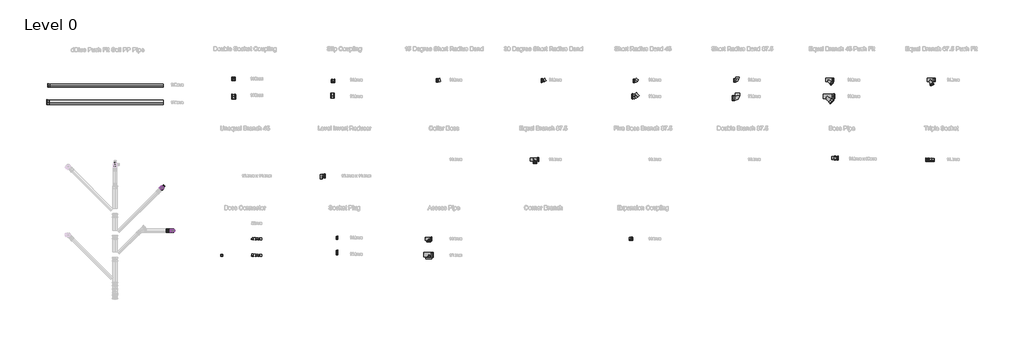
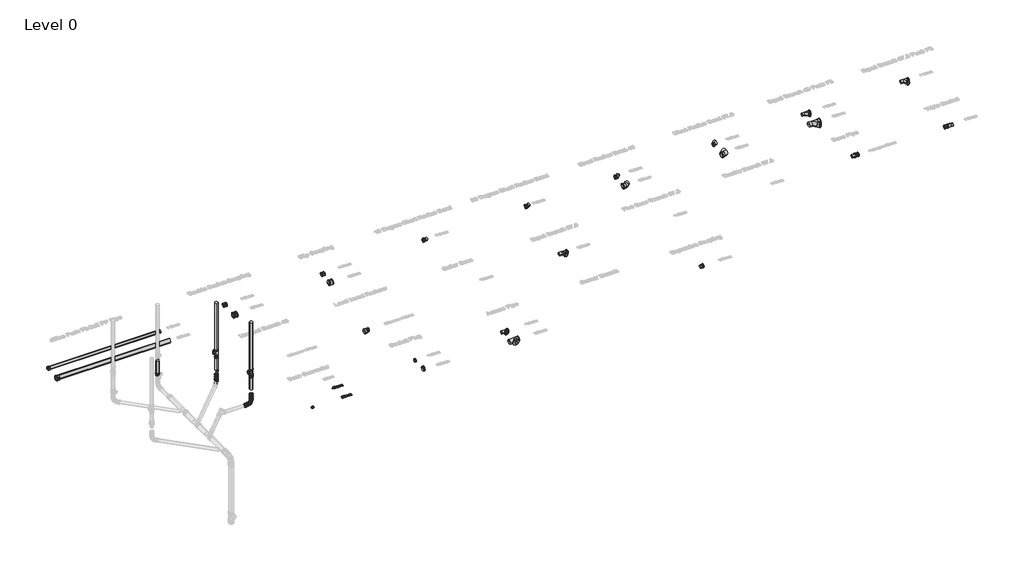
# One storey, part 2 of 15: 50 pipe fittings, 2 proxies.
"""IFC4 building model written with IfcOpenShell, lengths in millimetres."""

from ifc_helpers import new_model, si_unit, point, frame, frame_2d, origin, origin_with_axes, place, context, project, spatial, polyline, circle_curve, trimmed, segment, composite_curve, outline, extrude, transform, mapped, element, save
from components import pipe_fitting_d93e64ae, pipe_fitting_703dc98e, pipe_fitting_92370083, pipe_fitting_46917a60, pipe_fitting_af558869, pipe_fitting_f7358239, pipe_fitting_c5ec87fd, pipe_fitting_485433b0, pipe_fitting_680307cb, pipe_fitting_e7de12d3, pipe_fitting_0bd95a64, pipe_fitting_395e146a, pipe_fitting_c605c0b5, pipe_fitting_47f9a3f0, pipe_fitting_3ffe21c8, pipe_fitting_f85930d2, pipe_fitting_5ae2cbee, pipe_fitting_27dfb203, pipe_fitting_538f6d23, pipe_fitting_d6a3997c, pipe_fitting_5f3f304f, sa420xbl_50mm_blue_6babe31f, se402bl_110mm_blue_ff2aa63c, se409bl_110mm_blue_ec458fc1, sy401bl_110mm_blue_66424996

model = new_model("IFC4")

# Units and contexts
model_context = context("Model", 3, world=origin())
ifc_project = project(units=[si_unit("LENGTHUNIT", "METRE", prefix="MILLI")], contexts=[model_context])

# Site, building, storey
site = spatial("IfcSite", under=ifc_project)
building = spatial("IfcBuilding", under=site)
storey = spatial("IfcBuildingStorey", under=building, Name="Level 0", Elevation=0.0)

# Proxies
placement = place(None, origin())
element("IfcBuildingElementProxy", 1, Name="100mm Arial", ObjectType="100mm Arial", at=placement, inside=storey, context=model_context, shape_type="SweptSolid", body=[
    extrude(outline(polyline([(-20760.1908572, 2637.7167304), (-20760.1908572, 2660.7936535), (-20804.8062418, 2660.7936535), (-20804.8062418, 2673.1013458), (-20757.1139341, 2734.6398073), (-20747.8831649, 2734.6398073), (-20747.8831649, 2673.1013458), (-20735.5754726, 2673.1013458), (-20735.5754726, 2660.7936535), (-20747.8831649, 2660.7936535), (-20747.8831649, 2637.7167304), (-20760.1908572, 2637.7167304)]), holes=[polyline([(-20760.1908572, 2673.1013458), (-20760.1908572, 2711.1301919), (-20789.6620111, 2673.1013458), (-20760.1908572, 2673.1013458)])]), origin_with_axes(), (0.0, 0.0, 1.0), 15.0),
    extrude(outline(polyline([(-20724.8062418, 2686.1542304), (-20721.1884534, 2714.4835573), (-20710.4432611, 2730.8176919), (-20692.4985495, 2736.1782688), (-20678.1235495, 2733.0051919), (-20668.1956649, 2723.8585573), (-20662.4264341, 2709.2912496), (-20660.1908572, 2686.1542304), (-20663.772588, 2657.9450958), (-20674.4817226, 2641.5749035), (-20692.4985495, 2636.1782688), (-20705.2870111, 2638.5220188), (-20714.9985495, 2645.5532688), (-20722.3543188, 2662.2059131), (-20724.8062418, 2686.1542304)]), holes=[polyline([(-20712.4985495, 2686.1782688), (-20711.0562418, 2666.8182929), (-20706.7293188, 2655.613365), (-20700.2870111, 2650.2678121), (-20692.4985495, 2648.4859611), (-20684.710088, 2650.2738217), (-20678.2677803, 2655.6374035), (-20673.9408572, 2666.848341), (-20672.4985495, 2686.1782688), (-20673.8927803, 2705.1025477), (-20678.0754726, 2716.394615), (-20684.5057611, 2722.0015861), (-20692.6427803, 2723.8705765), (-20700.3471072, 2722.2239419), (-20706.5370111, 2717.2840381), (-20711.0081649, 2705.2888458), (-20712.4985495, 2686.1782688)])]), origin_with_axes(), (0.0, 0.0, 1.0), 15.0),
    extrude(outline(polyline([(-20646.3447034, 2637.7167304), (-20646.3447034, 2710.0244227), (-20634.0370111, 2710.0244227), (-20634.0370111, 2698.1253842), (-20625.5754726, 2707.8729804), (-20613.5322034, 2711.5628842), (-20601.2004726, 2707.800865), (-20594.4216264, 2697.2599996), (-20584.8182611, 2707.9871631), (-20572.6908572, 2711.5628842), (-20563.4390543, 2710.0755044), (-20556.5971072, 2705.613365), (-20552.3693428, 2698.0562736), (-20550.960088, 2687.2840381), (-20550.960088, 2637.7167304), (-20563.2677803, 2637.7167304), (-20563.2677803, 2681.9955765), (-20564.4096072, 2692.2720188), (-20568.5442226, 2697.332115), (-20575.5754726, 2699.2551919), (-20587.678838, 2694.3273073), (-20592.4985495, 2678.5340381), (-20592.4985495, 2637.7167304), (-20604.8062418, 2637.7167304), (-20604.8062418, 2683.3657688), (-20607.6547995, 2695.2888458), (-20616.9937418, 2699.2551919), (-20626.1043188, 2696.6109611), (-20632.1620111, 2688.8705765), (-20634.0370111, 2674.1830765), (-20634.0370111, 2637.7167304), (-20646.3447034, 2637.7167304)])), origin_with_axes(), (0.0, 0.0, 1.0), 15.0),
    extrude(outline(polyline([(-20532.4985495, 2637.7167304), (-20532.4985495, 2710.0244227), (-20520.1908572, 2710.0244227), (-20520.1908572, 2698.1253842), (-20511.7293188, 2707.8729804), (-20499.6860495, 2711.5628842), (-20487.3543188, 2707.800865), (-20480.5754726, 2697.2599996), (-20470.9721072, 2707.9871631), (-20458.8447034, 2711.5628842), (-20449.5929005, 2710.0755044), (-20442.7509534, 2705.613365), (-20438.5231889, 2698.0562736), (-20437.1139341, 2687.2840381), (-20437.1139341, 2637.7167304), (-20449.4216264, 2637.7167304), (-20449.4216264, 2681.9955765), (-20450.5634534, 2692.2720188), (-20454.6980688, 2697.332115), (-20461.7293188, 2699.2551919), (-20473.8326841, 2694.3273073), (-20478.6523957, 2678.5340381), (-20478.6523957, 2637.7167304), (-20490.960088, 2637.7167304), (-20490.960088, 2683.3657688), (-20493.8086457, 2695.2888458), (-20503.147588, 2699.2551919), (-20512.2581649, 2696.6109611), (-20518.3158572, 2688.8705765), (-20520.1908572, 2674.1830765), (-20520.1908572, 2637.7167304), (-20532.4985495, 2637.7167304)])), origin_with_axes(), (0.0, 0.0, 1.0), 15.0),
])
element("IfcBuildingElementProxy", 2, Name="100mm Arial", ObjectType="100mm Arial", at=placement, inside=storey, context=model_context, shape_type="SweptSolid", body=[
    extrude(outline(polyline([(-20800.1908572, 2083.8705765), (-20787.8831649, 2085.4090381), (-20781.6812418, 2072.7287496), (-20768.8206649, 2068.4859611), (-20759.9985495, 2069.9613217), (-20753.3879726, 2074.3874035), (-20749.2593668, 2081.253389), (-20747.8831649, 2090.0484611), (-20753.0394149, 2104.6638458), (-20759.5147755, 2108.6842785), (-20768.6283572, 2110.0244227), (-20779.4336457, 2107.8849996), (-20786.3447034, 2102.332115), (-20798.6523957, 2103.8705765), (-20787.8831649, 2154.6398073), (-20740.1908572, 2154.6398073), (-20740.1908572, 2142.332115), (-20777.9312418, 2142.332115), (-20783.1956649, 2115.2167304), (-20774.4035976, 2120.5532688), (-20765.1908572, 2122.332115), (-20753.6914582, 2120.1265861), (-20744.1451841, 2113.5099996), (-20737.7179005, 2103.425865), (-20735.5754726, 2090.8176919), (-20737.5045591, 2078.5099996), (-20743.2918188, 2067.9811535), (-20754.3735495, 2059.12899), (-20768.8687418, 2056.1782688), (-20780.9570832, 2058.0743025), (-20790.5874918, 2063.7624035), (-20797.1890543, 2072.581514), (-20800.1908572, 2083.8705765)])), origin_with_axes(), (0.0, 0.0, 1.0), 15.0),
    extrude(outline(polyline([(-20724.8062418, 2106.1542304), (-20721.1884534, 2134.4835573), (-20710.4432611, 2150.8176919), (-20692.4985495, 2156.1782688), (-20678.1235495, 2153.0051919), (-20668.1956649, 2143.8585573), (-20662.4264341, 2129.2912496), (-20660.1908572, 2106.1542304), (-20663.772588, 2077.9450958), (-20674.4817226, 2061.5749035), (-20692.4985495, 2056.1782688), (-20705.2870111, 2058.5220188), (-20714.9985495, 2065.5532688), (-20722.3543188, 2082.2059131), (-20724.8062418, 2106.1542304)]), holes=[polyline([(-20712.4985495, 2106.1782688), (-20711.0562418, 2086.8182929), (-20706.7293188, 2075.613365), (-20700.2870111, 2070.2678121), (-20692.4985495, 2068.4859611), (-20684.710088, 2070.2738217), (-20678.2677803, 2075.6374035), (-20673.9408572, 2086.848341), (-20672.4985495, 2106.1782688), (-20673.8927803, 2125.1025477), (-20678.0754726, 2136.394615), (-20684.5057611, 2142.0015861), (-20692.6427803, 2143.8705765), (-20700.3471072, 2142.2239419), (-20706.5370111, 2137.2840381), (-20711.0081649, 2125.2888458), (-20712.4985495, 2106.1782688)])]), origin_with_axes(), (0.0, 0.0, 1.0), 15.0),
    extrude(outline(polyline([(-20646.3447034, 2057.7167304), (-20646.3447034, 2130.0244227), (-20634.0370111, 2130.0244227), (-20634.0370111, 2118.1253842), (-20625.5754726, 2127.8729804), (-20613.5322034, 2131.5628842), (-20601.2004726, 2127.800865), (-20594.4216264, 2117.2599996), (-20584.8182611, 2127.9871631), (-20572.6908572, 2131.5628842), (-20563.4390543, 2130.0755044), (-20556.5971072, 2125.613365), (-20552.3693428, 2118.0562736), (-20550.960088, 2107.2840381), (-20550.960088, 2057.7167304), (-20563.2677803, 2057.7167304), (-20563.2677803, 2101.9955765), (-20564.4096072, 2112.2720188), (-20568.5442226, 2117.332115), (-20575.5754726, 2119.2551919), (-20587.678838, 2114.3273073), (-20592.4985495, 2098.5340381), (-20592.4985495, 2057.7167304), (-20604.8062418, 2057.7167304), (-20604.8062418, 2103.3657688), (-20607.6547995, 2115.2888458), (-20616.9937418, 2119.2551919), (-20626.1043188, 2116.6109611), (-20632.1620111, 2108.8705765), (-20634.0370111, 2094.1830765), (-20634.0370111, 2057.7167304), (-20646.3447034, 2057.7167304)])), origin_with_axes(), (0.0, 0.0, 1.0), 15.0),
    extrude(outline(polyline([(-20532.4985495, 2057.7167304), (-20532.4985495, 2130.0244227), (-20520.1908572, 2130.0244227), (-20520.1908572, 2118.1253842), (-20511.7293188, 2127.8729804), (-20499.6860495, 2131.5628842), (-20487.3543188, 2127.800865), (-20480.5754726, 2117.2599996), (-20470.9721072, 2127.9871631), (-20458.8447034, 2131.5628842), (-20449.5929005, 2130.0755044), (-20442.7509534, 2125.613365), (-20438.5231889, 2118.0562736), (-20437.1139341, 2107.2840381), (-20437.1139341, 2057.7167304), (-20449.4216264, 2057.7167304), (-20449.4216264, 2101.9955765), (-20450.5634534, 2112.2720188), (-20454.6980688, 2117.332115), (-20461.7293188, 2119.2551919), (-20473.8326841, 2114.3273073), (-20478.6523957, 2098.5340381), (-20478.6523957, 2057.7167304), (-20490.960088, 2057.7167304), (-20490.960088, 2103.3657688), (-20493.8086457, 2115.2888458), (-20503.147588, 2119.2551919), (-20512.2581649, 2116.6109611), (-20518.3158572, 2108.8705765), (-20520.1908572, 2094.1830765), (-20520.1908572, 2057.7167304), (-20532.4985495, 2057.7167304)])), origin_with_axes(), (0.0, 0.0, 1.0), 15.0),
])

# Pipe fittings
element("IfcPipeFitting", 3, ObjectType="Marley dBlue - PP Push-fit soil - Blue", at=placement, inside=storey, context=model_context, shape_type="SweptSolid", body=[
    extrude(outline(composite_curve([segment(trimmed(circle_curve(frame_2d((8080.2145219, 0.0)), 55.0), [point((8025.2145219, 0.0))], [point((8080.2145219, 55.0))], False, "CARTESIAN"), True, "CONTINUOUS"), segment(trimmed(circle_curve(frame_2d((8080.2145219, 0.0)), 55.0), [point((8080.2145219, 55.0))], [point((8135.2145219, 0.0))], False, "CARTESIAN"), True, "CONTINUOUS"), segment(trimmed(circle_curve(frame_2d((8080.2145219, 0.0)), 55.0), [point((8135.2145219, 0.0))], [point((8080.2145219, -55.0))], False, "CARTESIAN"), True, "CONTINUOUS"), segment(trimmed(circle_curve(frame_2d((8080.2145219, 0.0)), 55.0), [point((8080.2145219, -55.0))], [point((8025.2145219, 0.0))], False, "CARTESIAN"), True, "CONTINUOUS")], self_intersect=False)), frame((-27898.9001753, 0.0, 0.0), z_axis=(1.0, 0.0, 0.0), x_axis=(0.0, 1.0, 0.0)), (0.0, 0.0, 1.0), 4000.0),
])
element("IfcPipeFitting", 4, ObjectType="Marley dBlue - PP Push-fit soil - Blue", at=placement, inside=storey, context=model_context, shape_type="SweptSolid", body=[
    extrude(outline(composite_curve([segment(trimmed(circle_curve(frame_2d((7488.9614868, 0.0)), 80.0), [point((7408.9614868, 0.0))], [point((7488.9614868, 80.0))], False, "CARTESIAN"), True, "CONTINUOUS"), segment(trimmed(circle_curve(frame_2d((7488.9614868, 0.0)), 80.0), [point((7488.9614868, 80.0))], [point((7568.9614868, 0.0))], False, "CARTESIAN"), True, "CONTINUOUS"), segment(trimmed(circle_curve(frame_2d((7488.9614868, 0.0)), 80.0), [point((7568.9614868, 0.0))], [point((7488.9614868, -80.0))], False, "CARTESIAN"), True, "CONTINUOUS"), segment(trimmed(circle_curve(frame_2d((7488.9614868, 0.0)), 80.0), [point((7488.9614868, -80.0))], [point((7408.9614868, 0.0))], False, "CARTESIAN"), True, "CONTINUOUS")], self_intersect=False)), frame((-27902.1440159, 0.0, 0.0), z_axis=(1.0, 0.0, 0.0), x_axis=(0.0, 1.0, 0.0)), (0.0, 0.0, 1.0), 4000.0),
])
element("IfcPipeFitting", 5, ObjectType="Marley dBlue - PP Push-fit soil - Blue", at=placement, inside=storey, context=model_context, shape_type="SweptSolid", body=[
    extrude(outline(composite_curve([segment(trimmed(circle_curve(frame_2d((-23952.4349211, 4470.6186127)), 55.0), [point((-24007.4349211, 4470.6186127))], [point((-23952.4349211, 4525.6186127))], False, "CARTESIAN"), True, "CONTINUOUS"), segment(trimmed(circle_curve(frame_2d((-23952.4349211, 4470.6186127)), 55.0), [point((-23952.4349211, 4525.6186127))], [point((-23897.4349211, 4470.6186127))], False, "CARTESIAN"), True, "CONTINUOUS"), segment(trimmed(circle_curve(frame_2d((-23952.4349211, 4470.6186127)), 55.0), [point((-23897.4349211, 4470.6186127))], [point((-23952.4349211, 4415.6186127))], False, "CARTESIAN"), True, "CONTINUOUS"), segment(trimmed(circle_curve(frame_2d((-23952.4349211, 4470.6186127)), 55.0), [point((-23952.4349211, 4415.6186127))], [point((-24007.4349211, 4470.6186127))], False, "CARTESIAN"), True, "CONTINUOUS")], self_intersect=False)), frame((0.0, 0.0, 1462.5709445), z_axis=(0.0, 0.0, 1.0), x_axis=(1.0, 0.0, 0.0)), (0.0, 0.0, 1.0), 1845.8947311),
])
element("IfcPipeFitting", 6, ObjectType="Marley dBlue - PP Push-fit soil - Blue", at=placement, inside=storey, context=model_context, shape_type="SweptSolid", body=[
    extrude(outline(composite_curve([segment(trimmed(circle_curve(frame_2d((-23952.4349211, 4470.6186127)), 55.0), [point((-24007.4349211, 4470.6186127))], [point((-23952.4349211, 4525.6186127))], False, "CARTESIAN"), True, "CONTINUOUS"), segment(trimmed(circle_curve(frame_2d((-23952.4349211, 4470.6186127)), 55.0), [point((-23952.4349211, 4525.6186127))], [point((-23897.4349211, 4470.6186127))], False, "CARTESIAN"), True, "CONTINUOUS"), segment(trimmed(circle_curve(frame_2d((-23952.4349211, 4470.6186127)), 55.0), [point((-23897.4349211, 4470.6186127))], [point((-23952.4349211, 4415.6186127))], False, "CARTESIAN"), True, "CONTINUOUS"), segment(trimmed(circle_curve(frame_2d((-23952.4349211, 4470.6186127)), 55.0), [point((-23952.4349211, 4415.6186127))], [point((-24007.4349211, 4470.6186127))], False, "CARTESIAN"), True, "CONTINUOUS")], self_intersect=False)), frame((0.0, 0.0, 1270.3154264), z_axis=(0.0, 0.0, 1.0), x_axis=(1.0, 0.0, 0.0)), (0.0, 0.0, 1.0), 11.7555181),
])
element("IfcPipeFitting", 7, ObjectType="Marley dBlue - PP Push-fit soil - Blue", at=placement, inside=storey, context=model_context, shape_type="SweptSolid", body=[
    extrude(outline(composite_curve([segment(trimmed(circle_curve(frame_2d((-23952.4349211, 4470.6186127)), 55.0), [point((-24007.4349211, 4470.6186127))], [point((-23952.4349211, 4525.6186127))], False, "CARTESIAN"), True, "CONTINUOUS"), segment(trimmed(circle_curve(frame_2d((-23952.4349211, 4470.6186127)), 55.0), [point((-23952.4349211, 4525.6186127))], [point((-23897.4349211, 4470.6186127))], False, "CARTESIAN"), True, "CONTINUOUS"), segment(trimmed(circle_curve(frame_2d((-23952.4349211, 4470.6186127)), 55.0), [point((-23897.4349211, 4470.6186127))], [point((-23952.4349211, 4415.6186127))], False, "CARTESIAN"), True, "CONTINUOUS"), segment(trimmed(circle_curve(frame_2d((-23952.4349211, 4470.6186127)), 55.0), [point((-23952.4349211, 4415.6186127))], [point((-24007.4349211, 4470.6186127))], False, "CARTESIAN"), True, "CONTINUOUS")], self_intersect=False)), frame((0.0, 0.0, 510.4328687), z_axis=(0.0, 0.0, 1.0), x_axis=(1.0, 0.0, 0.0)), (0.0, 0.0, 1.0), 18.0481103),
])
element("IfcPipeFitting", 8, ObjectType="Marley dBlue - PP Push-fit soil - Blue", at=placement, inside=storey, context=model_context, shape_type="SweptSolid", body=[
    extrude(outline(composite_curve([segment(trimmed(circle_curve(frame_2d((-23952.4349211, 4470.6186127)), 55.0), [point((-24007.4349211, 4470.6186127))], [point((-23952.4349211, 4525.6186127))], False, "CARTESIAN"), True, "CONTINUOUS"), segment(trimmed(circle_curve(frame_2d((-23952.4349211, 4470.6186127)), 55.0), [point((-23952.4349211, 4525.6186127))], [point((-23897.4349211, 4470.6186127))], False, "CARTESIAN"), True, "CONTINUOUS"), segment(trimmed(circle_curve(frame_2d((-23952.4349211, 4470.6186127)), 55.0), [point((-23897.4349211, 4470.6186127))], [point((-23952.4349211, 4415.6186127))], False, "CARTESIAN"), True, "CONTINUOUS"), segment(trimmed(circle_curve(frame_2d((-23952.4349211, 4470.6186127)), 55.0), [point((-23952.4349211, 4415.6186127))], [point((-24007.4349211, 4470.6186127))], False, "CARTESIAN"), True, "CONTINUOUS")], self_intersect=False)), frame((0.0, 0.0, 330.7335137), z_axis=(0.0, 0.0, 1.0), x_axis=(1.0, 0.0, 0.0)), (0.0, 0.0, 1.0), 178.3660217),
])
element("IfcPipeFitting", 9, ObjectType="Marley dBlue - PP Push-fit soil - Blue", at=placement, inside=storey, context=model_context, shape_type="SweptSolid", body=[
    extrude(outline(composite_curve([segment(trimmed(circle_curve(frame_2d((-23952.4349211, 4470.6186127)), 55.0), [point((-24007.4349211, 4470.6186127))], [point((-23952.4349211, 4525.6186127))], False, "CARTESIAN"), True, "CONTINUOUS"), segment(trimmed(circle_curve(frame_2d((-23952.4349211, 4470.6186127)), 55.0), [point((-23952.4349211, 4525.6186127))], [point((-23897.4349211, 4470.6186127))], False, "CARTESIAN"), True, "CONTINUOUS"), segment(trimmed(circle_curve(frame_2d((-23952.4349211, 4470.6186127)), 55.0), [point((-23897.4349211, 4470.6186127))], [point((-23952.4349211, 4415.6186127))], False, "CARTESIAN"), True, "CONTINUOUS"), segment(trimmed(circle_curve(frame_2d((-23952.4349211, 4470.6186127)), 55.0), [point((-23952.4349211, 4415.6186127))], [point((-24007.4349211, 4470.6186127))], False, "CARTESIAN"), True, "CONTINUOUS")], self_intersect=False)), frame((0.0, 0.0, 756.7869007), z_axis=(0.0, 0.0, 1.0), x_axis=(1.0, 0.0, 0.0)), (0.0, 0.0, 1.0), 512.1951924),
])
element("IfcPipeFitting", 10, ObjectType="Marley dBlue - PP Push-fit soil - Blue", at=placement, inside=storey, context=model_context, shape_type="SweptSolid", body=[
    extrude(outline(composite_curve([segment(trimmed(circle_curve(frame_2d((-23563.6504321, 2968.2313141)), 55.0), [point((-23618.6504321, 2968.2313141))], [point((-23563.6504321, 3023.2313141))], False, "CARTESIAN"), True, "CONTINUOUS"), segment(trimmed(circle_curve(frame_2d((-23563.6504321, 2968.2313141)), 55.0), [point((-23563.6504321, 3023.2313141))], [point((-23508.6504321, 2968.2313141))], False, "CARTESIAN"), True, "CONTINUOUS"), segment(trimmed(circle_curve(frame_2d((-23563.6504321, 2968.2313141)), 55.0), [point((-23508.6504321, 2968.2313141))], [point((-23563.6504321, 2913.2313141))], False, "CARTESIAN"), True, "CONTINUOUS"), segment(trimmed(circle_curve(frame_2d((-23563.6504321, 2968.2313141)), 55.0), [point((-23563.6504321, 2913.2313141))], [point((-23618.6504321, 2968.2313141))], False, "CARTESIAN"), True, "CONTINUOUS")], self_intersect=False)), frame((0.0, 0.0, 1490.7313031), z_axis=(0.0, 0.0, 1.0), x_axis=(1.0, 0.0, 0.0)), (0.0, 0.0, 1.0), 1843.8947311),
])
element("IfcPipeFitting", 11, ObjectType="Marley dBlue - PP Push-fit soil - Blue", at=placement, inside=storey, context=model_context, shape_type="SweptSolid", body=[
    extrude(outline(composite_curve([segment(trimmed(circle_curve(frame_2d((-23563.6504321, 2968.2313141)), 55.0), [point((-23618.6504321, 2968.2313141))], [point((-23563.6504321, 3023.2313141))], False, "CARTESIAN"), True, "CONTINUOUS"), segment(trimmed(circle_curve(frame_2d((-23563.6504321, 2968.2313141)), 55.0), [point((-23563.6504321, 3023.2313141))], [point((-23508.6504321, 2968.2313141))], False, "CARTESIAN"), True, "CONTINUOUS"), segment(trimmed(circle_curve(frame_2d((-23563.6504321, 2968.2313141)), 55.0), [point((-23508.6504321, 2968.2313141))], [point((-23563.6504321, 2913.2313141))], False, "CARTESIAN"), True, "CONTINUOUS"), segment(trimmed(circle_curve(frame_2d((-23563.6504321, 2968.2313141)), 55.0), [point((-23563.6504321, 2913.2313141))], [point((-23618.6504321, 2968.2313141))], False, "CARTESIAN"), True, "CONTINUOUS")], self_intersect=False)), frame((0.0, 0.0, 1295.1874), z_axis=(0.0, 0.0, 1.0), x_axis=(1.0, 0.0, 0.0)), (0.0, 0.0, 1.0), 15.0439031),
])
element("IfcPipeFitting", 12, ObjectType="Marley dBlue - PP Push-fit soil - Blue", at=placement, inside=storey, context=model_context, shape_type="SweptSolid", body=[
    extrude(outline(composite_curve([segment(trimmed(circle_curve(frame_2d((-23563.6504321, 2968.2313141)), 55.0), [point((-23618.6504321, 2968.2313141))], [point((-23563.6504321, 3023.2313141))], False, "CARTESIAN"), True, "CONTINUOUS"), segment(trimmed(circle_curve(frame_2d((-23563.6504321, 2968.2313141)), 55.0), [point((-23563.6504321, 3023.2313141))], [point((-23508.6504321, 2968.2313141))], False, "CARTESIAN"), True, "CONTINUOUS"), segment(trimmed(circle_curve(frame_2d((-23563.6504321, 2968.2313141)), 55.0), [point((-23508.6504321, 2968.2313141))], [point((-23563.6504321, 2913.2313141))], False, "CARTESIAN"), True, "CONTINUOUS"), segment(trimmed(circle_curve(frame_2d((-23563.6504321, 2968.2313141)), 55.0), [point((-23563.6504321, 2913.2313141))], [point((-23618.6504321, 2968.2313141))], False, "CARTESIAN"), True, "CONTINUOUS")], self_intersect=False)), frame((0.0, 0.0, 534.3837418), z_axis=(0.0, 0.0, 1.0), x_axis=(1.0, 0.0, 0.0)), (0.0, 0.0, 1.0), 14.7003743),
])
element("IfcPipeFitting", 13, ObjectType="Marley dBlue - PP Push-fit soil - Blue", at=placement, inside=storey, context=model_context, shape_type="SweptSolid", body=[
    extrude(outline(composite_curve([segment(trimmed(circle_curve(frame_2d((-23563.6504321, 2968.2313141)), 55.0), [point((-23618.6504321, 2968.2313141))], [point((-23563.6504321, 3023.2313141))], False, "CARTESIAN"), True, "CONTINUOUS"), segment(trimmed(circle_curve(frame_2d((-23563.6504321, 2968.2313141)), 55.0), [point((-23563.6504321, 3023.2313141))], [point((-23508.6504321, 2968.2313141))], False, "CARTESIAN"), True, "CONTINUOUS"), segment(trimmed(circle_curve(frame_2d((-23563.6504321, 2968.2313141)), 55.0), [point((-23508.6504321, 2968.2313141))], [point((-23563.6504321, 2913.2313141))], False, "CARTESIAN"), True, "CONTINUOUS"), segment(trimmed(circle_curve(frame_2d((-23563.6504321, 2968.2313141)), 55.0), [point((-23563.6504321, 2913.2313141))], [point((-23618.6504321, 2968.2313141))], False, "CARTESIAN"), True, "CONTINUOUS")], self_intersect=False)), frame((0.0, 0.0, 777.4389608), z_axis=(0.0, 0.0, 1.0), x_axis=(1.0, 0.0, 0.0)), (0.0, 0.0, 1.0), 516.4151059),
])
element("IfcPipeFitting", 14, ObjectType="Marley dBlue - PP Push-fit soil - Blue", at=placement, inside=storey, context=model_context, shape_type="SweptSolid", body=[
    extrude(outline(composite_curve([segment(trimmed(circle_curve(frame_2d((-23563.5196719, 2968.2313141)), 55.0), [point((-23618.5196719, 2968.2313141))], [point((-23563.5196719, 3023.2313141))], False, "CARTESIAN"), True, "CONTINUOUS"), segment(trimmed(circle_curve(frame_2d((-23563.5196719, 2968.2313141)), 55.0), [point((-23563.5196719, 3023.2313141))], [point((-23508.5196719, 2968.2313141))], False, "CARTESIAN"), True, "CONTINUOUS"), segment(trimmed(circle_curve(frame_2d((-23563.5196719, 2968.2313141)), 55.0), [point((-23508.5196719, 2968.2313141))], [point((-23563.5196719, 2913.2313141))], False, "CARTESIAN"), True, "CONTINUOUS"), segment(trimmed(circle_curve(frame_2d((-23563.5196719, 2968.2313141)), 55.0), [point((-23563.5196719, 2913.2313141))], [point((-23618.5196719, 2968.2313141))], False, "CARTESIAN"), True, "CONTINUOUS")], self_intersect=False)), frame((0.0, 0.0, 344.6260343), z_axis=(0.0, 0.0, 1.0), x_axis=(1.0, 0.0, 0.0)), (0.0, 0.0, 1.0), 188.4243742),
])
element("IfcPipeFitting", 15, ObjectType="Marley dBlue - PP Push-fit soil - Blue", at=placement, inside=storey, context=model_context, shape_type="SweptSolid", body=[
    extrude(outline(composite_curve([segment(trimmed(circle_curve(frame_2d((-25599.2159271, 5296.9389094)), 55.0), [point((-25544.2159271, 5296.9389094))], [point((-25599.2159271, 5241.9389094))], False, "CARTESIAN"), True, "CONTINUOUS"), segment(trimmed(circle_curve(frame_2d((-25599.2159271, 5296.9389094)), 55.0), [point((-25599.2159271, 5241.9389094))], [point((-25654.2159271, 5296.9389094))], False, "CARTESIAN"), True, "CONTINUOUS"), segment(trimmed(circle_curve(frame_2d((-25599.2159271, 5296.9389094)), 55.0), [point((-25654.2159271, 5296.9389094))], [point((-25599.2159271, 5351.9389094))], False, "CARTESIAN"), True, "CONTINUOUS"), segment(trimmed(circle_curve(frame_2d((-25599.2159271, 5296.9389094)), 55.0), [point((-25599.2159271, 5351.9389094))], [point((-25544.2159271, 5296.9389094))], False, "CARTESIAN"), True, "CONTINUOUS")], self_intersect=False)), frame((0.0, 0.0, 647.2104462), z_axis=(0.0, 0.0, 1.0), x_axis=(1.0, 0.0, 0.0)), (0.0, 0.0, 1.0), 600.614712),
])
pipe_fitting_shape = pipe_fitting_d93e64ae(model_context)
element("IfcPipeFitting", 16, ObjectType="dBlue Pipe Socket : 160mm - dBlue", at=placement, inside=storey, context=model_context, shape_type="MappedRepresentation", body=[
    mapped(pipe_fitting_shape, transform((-27916.9693977, 7488.9614868, 0.0), x_axis=(-1.0, 0.0, 0.0), y_axis=(0.0, -1.0, 0.0), z_axis=(0.0, 0.0, 1.0))),
])
pipe_fitting_2_shape = pipe_fitting_703dc98e(model_context)
element("IfcPipeFitting", 17, ObjectType="dBlue Pipe Socket : 110mm - dBlue", at=placement, inside=storey, context=model_context, shape_type="MappedRepresentation", body=[
    mapped(pipe_fitting_2_shape, transform((-27913.7255571, 8080.2145219, 0.0), x_axis=(-1.0, 0.0, 0.0), y_axis=(0.0, -1.0, 0.0), z_axis=(0.0, 0.0, 1.0))),
])
pipe_fitting_3_shape = pipe_fitting_92370083(model_context)
element("IfcPipeFitting", 18, ObjectType="MarleyPlumbingAndDrainage_PipeFitting_dBlueSlipCoupling_VMP : VMP-110-000-00D - 110mm - Blue", at=placement, inside=storey, context=model_context, shape_type="MappedRepresentation", body=[
    mapped(pipe_fitting_3_shape, transform((-17914.2410694, 8243.2313914, 0.0), x_axis=(1.0, 0.0, 0.0), y_axis=(0.0, 1.0, 0.0), z_axis=(0.0, 0.0, 1.0))),
])
pipe_fitting_4_shape = pipe_fitting_46917a60(model_context)
element("IfcPipeFitting", 19, ObjectType="MarleyPlumbingAndDrainage_PipeFitting_dBlueSlipCoupling_VMP : VMP-160-000-00D - 160mm - Blue", at=placement, inside=storey, context=model_context, shape_type="MappedRepresentation", body=[
    mapped(pipe_fitting_4_shape, transform((-17934.2410694, 7728.4025554, 0.0), x_axis=(1.0, 0.0, 0.0), y_axis=(0.0, 1.0, 0.0), z_axis=(0.0, 0.0, 1.0))),
])
pipe_fitting_5_shape = pipe_fitting_af558869(model_context)
element("IfcPipeFitting", 20, ObjectType="MarleyPlumbingAndDrainage_PipeFitting_dBlueDoubleSocketCoupling_VMD : VMD-110-000-00D - 110mm - Blue", at=placement, inside=storey, context=model_context, shape_type="MappedRepresentation", body=[
    mapped(pipe_fitting_5_shape, transform((-21414.2410694, 8317.2729247, 0.0), x_axis=(1.0, 0.0, 0.0), y_axis=(0.0, 0.0, 1.0), z_axis=(0.0, -1.0, 0.0))),
])
element("IfcPipeFitting", 21, ObjectType="MarleyPlumbingAndDrainage_PipeFitting_dBlueDoubleSocketCoupling_VMD : VMD-110-000-00D - 110mm - Blue", at=placement, inside=storey, context=model_context, shape_type="MappedRepresentation", body=[
    mapped(pipe_fitting_5_shape, transform((-23952.4349211, 4470.6186127, 496.9408202), x_axis=(0.0, 0.0, -1.0), y_axis=(-0.7071067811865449, 0.7071067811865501, 0.0), z_axis=(0.7071067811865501, 0.7071067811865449, 0.0))),
])
element("IfcPipeFitting", 22, ObjectType="MarleyPlumbingAndDrainage_PipeFitting_dBlueDoubleSocketCoupling_VMD : VMD-110-000-00D - 110mm - Blue", at=placement, inside=storey, context=model_context, shape_type="MappedRepresentation", body=[
    mapped(pipe_fitting_5_shape, transform((-23952.4349211, 4470.6186127, 1256.8233779), x_axis=(0.0, 0.0, -1.0), y_axis=(-0.7071067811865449, 0.7071067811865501, 0.0), z_axis=(0.7071067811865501, 0.7071067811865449, 0.0))),
])
element("IfcPipeFitting", 23, ObjectType="MarleyPlumbingAndDrainage_PipeFitting_dBlueDoubleSocketCoupling_VMD : VMD-110-000-00D - 110mm - Blue", at=placement, inside=storey, context=model_context, shape_type="MappedRepresentation", body=[
    mapped(pipe_fitting_5_shape, transform((-23563.6504321, 2968.2313141, 1281.6953515), x_axis=(0.0, 0.0, -1.0), y_axis=(-1.0, 0.0, 0.0), z_axis=(0.0, 1.0, 0.0))),
])
element("IfcPipeFitting", 24, ObjectType="MarleyPlumbingAndDrainage_PipeFitting_dBlueDoubleSocketCoupling_VMD : VMD-110-000-00D - 110mm - Blue", at=placement, inside=storey, context=model_context, shape_type="MappedRepresentation", body=[
    mapped(pipe_fitting_5_shape, transform((-23563.6504321, 2968.2313141, 520.8916933), x_axis=(0.0, 0.0, -1.0), y_axis=(-1.0, 0.0, 0.0), z_axis=(0.0, 1.0, 0.0))),
])
element("IfcPipeFitting", 25, ObjectType="MarleyPlumbingAndDrainage_PipeFitting_dBlueDoubleSocketCoupling_VMD : VMD-110-000-00D - 110mm - Blue", at=placement, inside=storey, context=model_context, shape_type="MappedRepresentation", body=[
    mapped(pipe_fitting_5_shape, transform((-23727.7752959, 2968.2313141, 228.0999768), x_axis=(0.999999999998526, 0.0, -1.7170241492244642e-06), y_axis=(0.0, -1.0, 0.0), z_axis=(-1.7170241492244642e-06, 0.0, -0.999999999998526))),
])
pipe_fitting_6_shape = pipe_fitting_f7358239(model_context)
element("IfcPipeFitting", 26, ObjectType="MarleyPlumbingAndDrainage_PipeFitting_dBlueDoubleSocketCoupling_VMD : VMD-160-000-00D - 160mm - Blue", at=placement, inside=storey, context=model_context, shape_type="MappedRepresentation", body=[
    mapped(pipe_fitting_6_shape, transform((-21414.2410694, 7690.5462552, 0.0), x_axis=(1.0, 0.0, 0.0), y_axis=(0.0, 1.0, 0.0), z_axis=(0.0, 0.0, 1.0))),
])
pipe_fitting_7_shape = pipe_fitting_c5ec87fd(model_context)
element("IfcPipeFitting", 27, ObjectType="MarleyPlumbingAndDrainage_PipeFitting_dBlue15DegreeBend_VKL : VKL-110-000-15D - 110mm - Blue", at=placement, inside=storey, context=model_context, shape_type="MappedRepresentation", body=[
    mapped(pipe_fitting_7_shape, transform((-14214.2996631, 8263.5983906, 0.0), x_axis=(1.0, 0.0, 0.0), y_axis=(0.0, 1.0, 0.0), z_axis=(0.0, 0.0, 1.0))),
])
pipe_fitting_8_shape = pipe_fitting_485433b0(model_context)
element("IfcPipeFitting", 28, ObjectType="MarleyPlumbingAndDrainage_PipeFitting_dBlue45DegreeBend_VKL : VKL-110-000-45D - 110mm - Blue", at=placement, inside=storey, context=model_context, shape_type="MappedRepresentation", body=[
    mapped(pipe_fitting_8_shape, transform((-7274.2996631, 8249.6250805, 0.0), x_axis=(1.0, 0.0, 0.0), y_axis=(0.0, 1.0, 0.0), z_axis=(0.0, 0.0, 1.0))),
])
element("IfcPipeFitting", 29, ObjectType="MarleyPlumbingAndDrainage_PipeFitting_dBlue45DegreeBend_VKL : VKL-110-000-45D - 110mm - Blue", at=placement, inside=storey, context=model_context, shape_type="MappedRepresentation", body=[
    mapped(pipe_fitting_8_shape, transform((-23952.6233787, 4470.8070703, 291.3210186), x_axis=(0.0, 0.0, -0.9999999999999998), y_axis=(-0.7071067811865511, -0.7071067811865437, 0.0), z_axis=(-0.7071067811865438, 0.7071067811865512, 0.0))),
])
element("IfcPipeFitting", 30, ObjectType="MarleyPlumbingAndDrainage_PipeFitting_dBlue45DegreeBend_VKL : VKL-110-000-45D - 110mm - Blue", at=placement, inside=storey, context=model_context, shape_type="MappedRepresentation", body=[
    mapped(pipe_fitting_8_shape, transform((-23666.0633513, 2968.2313141, 217.6581749), x_axis=(-0.7071079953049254, 0.0, -0.7071055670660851), y_axis=(-0.7071055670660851, 0.0, 0.7071079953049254), z_axis=(0.0, 1.0, 0.0))),
])
element("IfcPipeFitting", 31, ObjectType="MarleyPlumbingAndDrainage_PipeFitting_dBlue45DegreeBend_VKL : VKL-110-000-45D - 110mm - Blue", at=placement, inside=storey, context=model_context, shape_type="MappedRepresentation", body=[
    mapped(pipe_fitting_8_shape, transform((-23563.5196719, 2968.2313141, 305.2135393), x_axis=(0.0, 0.0, -0.9999999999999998), y_axis=(-0.9999999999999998, 0.0, 0.0), z_axis=(0.0, 1.0, 0.0))),
])
pipe_fitting_9_shape = pipe_fitting_680307cb(model_context)
element("IfcPipeFitting", 32, ObjectType="MarleyPlumbingAndDrainage_PipeFitting_dBlue45DegreeBend_VKL : VKL-160-000-45D - 160mm - Blue", at=placement, inside=storey, context=model_context, shape_type="MappedRepresentation", body=[
    mapped(pipe_fitting_9_shape, transform((-7274.2996631, 7699.2872864, 0.0), x_axis=(1.0, 0.0, 0.0), y_axis=(0.0, 1.0, 0.0), z_axis=(0.0, 0.0, 1.0))),
])
pipe_fitting_10_shape = pipe_fitting_e7de12d3(model_context)
element("IfcPipeFitting", 33, ObjectType="MarleyPlumbingAndDrainage_PipeFitting_dBlue30DegreeBend_VKL : VKL-110-000-30D - 110mm - Blue", at=placement, inside=storey, context=model_context, shape_type="MappedRepresentation", body=[
    mapped(pipe_fitting_10_shape, transform((-10514.2996631, 8259.7963847, 0.0), x_axis=(1.0, 0.0, 0.0), y_axis=(0.0, 1.0, 0.0), z_axis=(0.0, 0.0, 1.0))),
])
pipe_fitting_11_shape = pipe_fitting_0bd95a64(model_context)
element("IfcPipeFitting", 34, ObjectType="MarleyPlumbingAndDrainage_PipeFitting_dBlue90DegreeBend_VKL : VKL-110-000-90D - 110mm - Blue", at=placement, inside=storey, context=model_context, shape_type="MappedRepresentation", body=[
    mapped(pipe_fitting_11_shape, transform((-3694.2996631, 8260.3807468, 0.0), x_axis=(1.0, 0.0, 0.0), y_axis=(0.0, 1.0, 0.0), z_axis=(0.0, 0.0, 1.0))),
])
pipe_fitting_12_shape = pipe_fitting_395e146a(model_context)
element("IfcPipeFitting", 35, ObjectType="MarleyPlumbingAndDrainage_PipeFitting_dBlue90DegreeBend_VKL : VKL-160-000-90D - 160mm - Blue", at=placement, inside=storey, context=model_context, shape_type="MappedRepresentation", body=[
    mapped(pipe_fitting_12_shape, transform((-3694.2996631, 7639.194557, 0.0), x_axis=(1.0, 0.0, 0.0), y_axis=(0.0, 1.0, 0.0), z_axis=(0.0, 0.0, 1.0))),
])
pipe_fitting_13_shape = pipe_fitting_c605c0b5(model_context)
element("IfcPipeFitting", 36, ObjectType="MarleyPlumbingAndDrainage_PipeFitting_dBlueEqualBranch_VTR : VTR-110-110-45D - 110mm - Blue", at=placement, inside=storey, context=model_context, shape_type="MappedRepresentation", body=[
    mapped(pipe_fitting_13_shape, transform((-494.2410694, 8280.2145219, 0.0), x_axis=(1.0, 0.0, 0.0), y_axis=(0.0, 1.0, 0.0), z_axis=(0.0, 0.0, 1.0))),
])
pipe_fitting_14_shape = pipe_fitting_47f9a3f0(model_context)
element("IfcPipeFitting", 37, ObjectType="MarleyPlumbingAndDrainage_PipeFitting_dBlueEqualBranch_VTR : VTR-110-110-67D - 110mm - Blue", at=placement, inside=storey, context=model_context, shape_type="MappedRepresentation", body=[
    mapped(pipe_fitting_14_shape, transform((3085.7589306, 8280.2145219, 0.0), x_axis=(1.0, 0.0, 0.0), y_axis=(0.0, 1.0, 0.0), z_axis=(0.0, 0.0, 1.0))),
])
pipe_fitting_15_shape = pipe_fitting_3ffe21c8(model_context)
element("IfcPipeFitting", 38, ObjectType="MarleyPlumbingAndDrainage_PipeFitting_dBlueEqualBranch_VTR : VTR-160-160-45D - 160mm - Blue", at=placement, inside=storey, context=model_context, shape_type="MappedRepresentation", body=[
    mapped(pipe_fitting_15_shape, transform((-554.2410694, 7700.2145219, 0.0), x_axis=(1.0, 0.0, 0.0), y_axis=(0.0, 1.0, 0.0), z_axis=(0.0, 0.0, 1.0))),
])
pipe_fitting_16_shape = pipe_fitting_f85930d2(model_context)
element("IfcPipeFitting", 39, ObjectType="MarleyPlumbingAndDrainage_PipeFitting_dBlueBossPipe_SW40 : SW40BL - 110mm x 50mm - Blue", at=placement, inside=storey, context=model_context, shape_type="MappedRepresentation", body=[
    mapped(pipe_fitting_16_shape, transform((-267.4996631, 5527.0507707, 0.0), x_axis=(1.0, 0.0, 0.0), y_axis=(0.0, 1.0, 0.0), z_axis=(0.0, 0.0, 1.0))),
])
pipe_fitting_17_shape = pipe_fitting_5ae2cbee(model_context)
element("IfcPipeFitting", 40, ObjectType="MarleyPlumbingAndDrainage_PipeFitting_dBlueAccess_VCZ-160-000-00D : VCZ-160-000-00D - 160mm - Blue", at=placement, inside=storey, context=model_context, shape_type="MappedRepresentation", body=[
    mapped(pipe_fitting_17_shape, transform((-14056.2711348, 2120.2145219, 0.0), x_axis=(1.0, 0.0, 0.0), y_axis=(0.0, 1.0, 0.0), z_axis=(0.0, 0.0, 1.0))),
])
pipe_fitting_18_shape = pipe_fitting_27dfb203(model_context)
element("IfcPipeFitting", 41, ObjectType="MarleyPlumbingAndDrainage_PipeFitting_dBlueAccess_VCZ-110-000-00D : VCZ-110-000-00D - 110mm - Blue", at=placement, inside=storey, context=model_context, shape_type="MappedRepresentation", body=[
    mapped(pipe_fitting_18_shape, transform((-14056.2711348, 2680.2145219, 0.0), x_axis=(1.0, 0.0, 0.0), y_axis=(0.0, 1.0, 0.0), z_axis=(0.0, 0.0, 1.0))),
])
element("IfcPipeFitting", 42, ObjectType="MarleyPlumbingAndDrainage_PipeFitting_dBlueAccess_VCZ-110-000-00D : VCZ-110-000-00D - 110mm - Blue", at=placement, inside=storey, context=model_context, shape_type="MappedRepresentation", body=[
    mapped(pipe_fitting_18_shape, transform((-23952.4349211, 4470.6186127, 1913.8662609), x_axis=(0.0, 0.0, 1.0), y_axis=(0.7071067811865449, -0.7071067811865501, 0.0), z_axis=(0.7071067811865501, 0.7071067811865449, 0.0))),
])
element("IfcPipeFitting", 43, ObjectType="MarleyPlumbingAndDrainage_PipeFitting_dBlueAccess_VCZ-110-000-00D : VCZ-110-000-00D - 110mm - Blue", at=placement, inside=storey, context=model_context, shape_type="MappedRepresentation", body=[
    mapped(pipe_fitting_18_shape, transform((-23563.6504321, 2968.2313141, 1942.0266195), x_axis=(0.0, 0.0, 1.0), y_axis=(1.0, 0.0, 0.0), z_axis=(0.0, 1.0, 0.0))),
])
pipe_fitting_19_shape = pipe_fitting_538f6d23(model_context)
element("IfcPipeFitting", 44, ObjectType="MarleyPlumbingAndDrainage_PipeFitting_dBlueReducer_VRD-160-110-00D : VRD-160-110-00D - 160mmx110mm - Blue", at=placement, inside=storey, context=model_context, shape_type="MappedRepresentation", body=[
    mapped(pipe_fitting_19_shape, transform((-18117.7864861, 4899.1879817, 0.0), x_axis=(1.0, 0.0, 0.0), y_axis=(0.0, 1.0, 0.0), z_axis=(0.0, 0.0, 1.0))),
])
pipe_fitting_20_shape = pipe_fitting_d6a3997c(model_context)
element("IfcPipeFitting", 45, ObjectType="MarleyPlumbingAndDrainage_PipeFitting_dBlueSocketPlug : VKK-110-000-00D - 110mm - Blue", at=placement, inside=storey, context=model_context, shape_type="MappedRepresentation", body=[
    mapped(pipe_fitting_20_shape, transform((-17754.2410694, 2720.2145219, 0.0), x_axis=(1.0, 0.0, 0.0), y_axis=(0.0, 1.0, 0.0), z_axis=(0.0, 0.0, 1.0))),
])
pipe_fitting_21_shape = pipe_fitting_5f3f304f(model_context)
element("IfcPipeFitting", 46, ObjectType="MarleyPlumbingAndDrainage_PipeFitting_dBlueSocketPlug : VKK-160-000-00D - 160mm - Blue", at=placement, inside=storey, context=model_context, shape_type="MappedRepresentation", body=[
    mapped(pipe_fitting_21_shape, transform((-17754.2410694, 2200.2145219, 0.0), x_axis=(1.0, 0.0, 0.0), y_axis=(0.0, 1.0, 0.0), z_axis=(0.0, 0.0, 1.0))),
])
sa420xbl_50mm_blue_shape = sa420xbl_50mm_blue_6babe31f(model_context)
element("IfcPipeFitting", 47, ObjectType="MarleyPlumbingAndDrainage_PipeFitting_dBlueBossConnector : SA420XBL - 50mm - Blue", at=placement, inside=storey, context=model_context, shape_type="MappedRepresentation", body=[
    mapped(sa420xbl_50mm_blue_shape, transform((-21677.7864861, 2100.2145219, 0.0), x_axis=(1.0, 0.0, 0.0), y_axis=(0.0, 1.0, 0.0), z_axis=(0.0, 0.0, 1.0))),
])
element("IfcPipeFitting", 48, ObjectType="MarleyPlumbingAndDrainage_PipeFitting_dBlueBossConnector : SA420XBL - 50mm - Blue", at=placement, inside=storey, context=model_context, shape_type="MappedRepresentation", body=[
    mapped(sa420xbl_50mm_blue_shape, transform((-23777.4729542, 4657.1401354, 627.580979), x_axis=(0.6755902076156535, 0.7372773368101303, 0.0), y_axis=(-0.7372773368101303, 0.6755902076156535, 0.0), z_axis=(0.0, 0.0, 1.0))),
])
se402bl_110mm_blue_shape = se402bl_110mm_blue_ff2aa63c(model_context)
element("IfcPipeFitting", 49, ObjectType="MarleyPlumbingAndDrainage_PipeFitting_dBlueTripleSocket : SE402BL - 110mm - Blue", at=placement, inside=storey, context=model_context, shape_type="MappedRepresentation", body=[
    mapped(se402bl_110mm_blue_shape, transform((3085.7589306, 5463.4565616, 0.0), x_axis=(1.0, 0.0, 0.0), y_axis=(0.0, 1.0, 0.0), z_axis=(0.0, 0.0, 1.0))),
])
se409bl_110mm_blue_shape = se409bl_110mm_blue_ec458fc1(model_context)
element("IfcPipeFitting", 50, ObjectType="MarleyPlumbingAndDrainage_PipeFitting_dBlueExpansionCoupling : SE409BL - 110mm - Blue", at=placement, inside=storey, context=model_context, shape_type="MappedRepresentation", body=[
    mapped(se409bl_110mm_blue_shape, transform((-7439.2410694, 2684.5104937, 0.0), x_axis=(1.0, 0.0, 0.0), y_axis=(0.0, 1.0, 0.0), z_axis=(0.0, 0.0, 1.0))),
])
element("IfcPipeFitting", 51, ObjectType="MarleyPlumbingAndDrainage_PipeFitting_dBlueExpansionCoupling : SE409BL - 110mm - Blue", at=placement, inside=storey, context=model_context, shape_type="MappedRepresentation", body=[
    mapped(se409bl_110mm_blue_shape, transform((-25599.2159271, 5296.9389094, 658.5358281), x_axis=(0.0, 0.0, 1.0), y_axis=(0.0, 1.0, 0.0), z_axis=(-1.0, 0.0, 0.0))),
])
sy401bl_110mm_blue_shape = sy401bl_110mm_blue_66424996(model_context)
element("IfcPipeFitting", 52, ObjectType="MarleyPlumbingAndDrainage_PipeFitting_dBlueEqualBranch87-5 : SY401BL - 110mm - Blue", at=placement, inside=storey, context=model_context, shape_type="MappedRepresentation", body=[
    mapped(sy401bl_110mm_blue_shape, transform((-10829.0664512, 5480.2145219, 0.0), x_axis=(1.0, 0.0, 0.0), y_axis=(0.0, 1.0, 0.0), z_axis=(0.0, 0.0, 1.0))),
])

save(model, "model.ifc")
